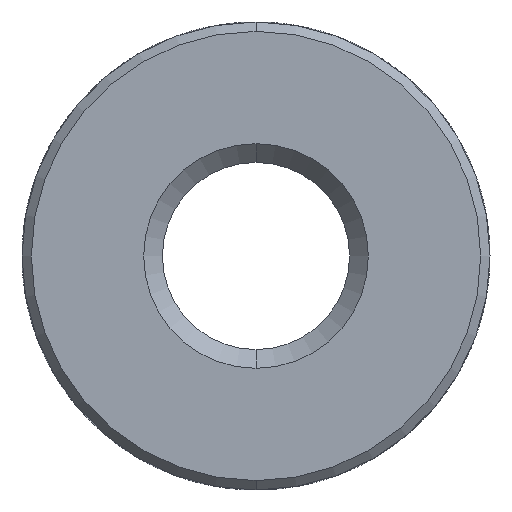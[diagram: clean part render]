
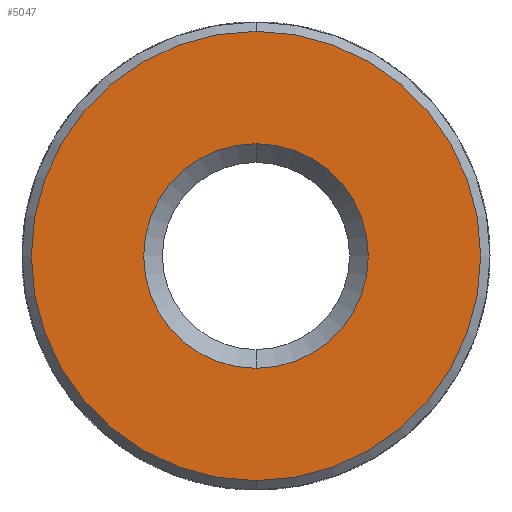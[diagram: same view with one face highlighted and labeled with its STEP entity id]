
A CAD part, front view. The second image highlights one B-rep face of the part: STEP entity #5047.
In plain terms, the highlighted planar face has unit normal (0, -1, 0).
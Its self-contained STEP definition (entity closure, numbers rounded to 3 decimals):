
#209 = CARTESIAN_POINT ( 'NONE',  ( 0., -4.3, 2.5 ) ) ;
#278 = VERTEX_POINT ( 'NONE', #591 ) ;
#449 = DIRECTION ( 'NONE',  ( 0., 0., -1. ) ) ;
#562 = EDGE_LOOP ( 'NONE', ( #5100, #4315 ) ) ;
#591 = CARTESIAN_POINT ( 'NONE',  ( 0., -4.3, 2.4 ) ) ;
#707 = AXIS2_PLACEMENT_3D ( 'NONE', #3087, #2618, #3509 ) ;
#1017 = DIRECTION ( 'NONE',  ( 0., -1., 0. ) ) ;
#1098 = ORIENTED_EDGE ( 'NONE', *, *, #2359, .T. ) ;
#1443 = CARTESIAN_POINT ( 'NONE',  ( 0., -4.3, 0. ) ) ;
#1465 = EDGE_LOOP ( 'NONE', ( #3526, #1098 ) ) ;
#1486 = DIRECTION ( 'NONE',  ( 0., 0., -1. ) ) ;
#1521 = CIRCLE ( 'NONE', #707, 2.4 ) ;
#1597 = VERTEX_POINT ( 'NONE', #4093 ) ;
#1807 = PLANE ( 'NONE',  #4058 ) ;
#1907 = CIRCLE ( 'NONE', #5287, 1.2 ) ;
#1956 = CARTESIAN_POINT ( 'NONE',  ( 0., -4.3, 1.2 ) ) ;
#2288 = CIRCLE ( 'NONE', #3993, 2.4 ) ;
#2359 = EDGE_CURVE ( 'NONE', #1597, #278, #1521, .T. ) ;
#2466 = EDGE_CURVE ( 'NONE', #3605, #3052, #4572, .T. ) ;
#2617 = EDGE_CURVE ( 'NONE', #3052, #3605, #1907, .T. ) ;
#2618 = DIRECTION ( 'NONE',  ( 0., -1., 0. ) ) ;
#2696 = CARTESIAN_POINT ( 'NONE',  ( 0., -4.3, 0. ) ) ;
#2748 = DIRECTION ( 'NONE',  ( 0., 0., -1. ) ) ;
#3052 = VERTEX_POINT ( 'NONE', #1956 ) ;
#3087 = CARTESIAN_POINT ( 'NONE',  ( 0., -4.3, 0. ) ) ;
#3291 = CARTESIAN_POINT ( 'NONE',  ( 0., -4.3, 0. ) ) ;
#3492 = CARTESIAN_POINT ( 'NONE',  ( 0., -4.3, -1.2 ) ) ;
#3509 = DIRECTION ( 'NONE',  ( 0., 0., -1. ) ) ;
#3526 = ORIENTED_EDGE ( 'NONE', *, *, #4240, .T. ) ;
#3605 = VERTEX_POINT ( 'NONE', #3492 ) ;
#3993 = AXIS2_PLACEMENT_3D ( 'NONE', #2696, #5215, #2748 ) ;
#4058 = AXIS2_PLACEMENT_3D ( 'NONE', #209, #1017, #5149 ) ;
#4093 = CARTESIAN_POINT ( 'NONE',  ( 0., -4.3, -2.4 ) ) ;
#4240 = EDGE_CURVE ( 'NONE', #278, #1597, #2288, .T. ) ;
#4315 = ORIENTED_EDGE ( 'NONE', *, *, #2617, .T. ) ;
#4541 = FACE_BOUND ( 'NONE', #562, .T. ) ;
#4560 = DIRECTION ( 'NONE',  ( 0., 1., 0. ) ) ;
#4572 = CIRCLE ( 'NONE', #4668, 1.2 ) ;
#4668 = AXIS2_PLACEMENT_3D ( 'NONE', #1443, #4779, #1486 ) ;
#4779 = DIRECTION ( 'NONE',  ( 0., 1., 0. ) ) ;
#4864 = FACE_OUTER_BOUND ( 'NONE', #1465, .T. ) ;
#5047 = ADVANCED_FACE ( 'NONE', ( #4864, #4541 ), #1807, .T. ) ;
#5100 = ORIENTED_EDGE ( 'NONE', *, *, #2466, .T. ) ;
#5149 = DIRECTION ( 'NONE',  ( 0., 0., -1. ) ) ;
#5215 = DIRECTION ( 'NONE',  ( 0., -1., 0. ) ) ;
#5287 = AXIS2_PLACEMENT_3D ( 'NONE', #3291, #4560, #449 ) ;
